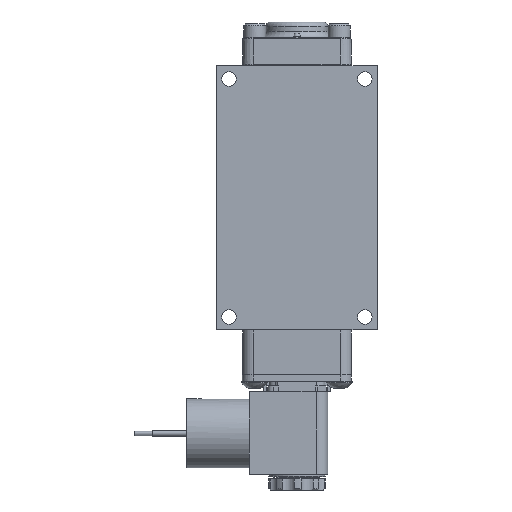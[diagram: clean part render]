
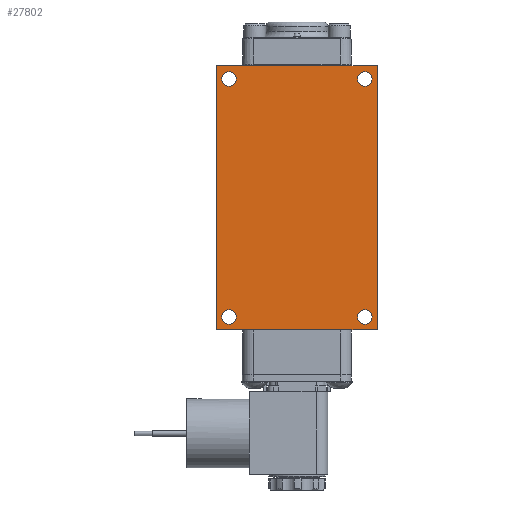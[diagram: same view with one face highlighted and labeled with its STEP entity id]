
A CAD part, front view. The second image highlights one B-rep face of the part: STEP entity #27802.
In plain terms, the highlighted planar face has unit normal (0, -1, 0).
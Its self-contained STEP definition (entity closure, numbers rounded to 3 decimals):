
#872=LINE('',#45897,#2687);
#881=LINE('',#45930,#2696);
#1103=LINE('',#47155,#2918);
#1345=LINE('',#48575,#3160);
#2687=VECTOR('',#35090,5.715);
#2696=VECTOR('',#35117,5.715);
#2918=VECTOR('',#35589,9.421);
#3160=VECTOR('',#35981,9.421);
#5207=FACE_BOUND('',#8757,.T.);
#5208=FACE_BOUND('',#8758,.T.);
#5209=FACE_BOUND('',#8759,.T.);
#5210=FACE_BOUND('',#8760,.T.);
#6765=FACE_OUTER_BOUND('',#8756,.T.);
#8756=EDGE_LOOP('',(#21982,#21983,#21984,#21985));
#8757=EDGE_LOOP('',(#21986));
#8758=EDGE_LOOP('',(#21987));
#8759=EDGE_LOOP('',(#21988));
#8760=EDGE_LOOP('',(#21989));
#10334=CIRCLE('',#30290,0.258);
#10335=CIRCLE('',#30292,0.258);
#10336=CIRCLE('',#30294,0.258);
#10337=CIRCLE('',#30296,0.258);
#11961=VERTEX_POINT('',#45894);
#11962=VERTEX_POINT('',#45896);
#11976=VERTEX_POINT('',#45927);
#11977=VERTEX_POINT('',#45929);
#12535=VERTEX_POINT('',#49326);
#12536=VERTEX_POINT('',#49329);
#12537=VERTEX_POINT('',#49332);
#12538=VERTEX_POINT('',#49335);
#15043=EDGE_CURVE('',#11961,#11962,#872,.T.);
#15059=EDGE_CURVE('',#11976,#11977,#881,.T.);
#15391=EDGE_CURVE('',#11977,#11961,#1103,.T.);
#15727=EDGE_CURVE('',#11962,#11976,#1345,.T.);
#15844=EDGE_CURVE('',#12535,#12535,#10334,.T.);
#15845=EDGE_CURVE('',#12536,#12536,#10335,.T.);
#15846=EDGE_CURVE('',#12537,#12537,#10336,.T.);
#15847=EDGE_CURVE('',#12538,#12538,#10337,.T.);
#21982=ORIENTED_EDGE('',*,*,#15391,.F.);
#21983=ORIENTED_EDGE('',*,*,#15059,.F.);
#21984=ORIENTED_EDGE('',*,*,#15727,.F.);
#21985=ORIENTED_EDGE('',*,*,#15043,.F.);
#21986=ORIENTED_EDGE('',*,*,#15844,.T.);
#21987=ORIENTED_EDGE('',*,*,#15845,.T.);
#21988=ORIENTED_EDGE('',*,*,#15846,.T.);
#21989=ORIENTED_EDGE('',*,*,#15847,.T.);
#24799=PLANE('',#30319);
#27802=ADVANCED_FACE('',(#6765,#5207,#5208,#5209,#5210),#24799,.F.);
#30290=AXIS2_PLACEMENT_3D('',#49327,#36280,#36281);
#30292=AXIS2_PLACEMENT_3D('',#49330,#36284,#36285);
#30294=AXIS2_PLACEMENT_3D('',#49333,#36288,#36289);
#30296=AXIS2_PLACEMENT_3D('',#49336,#36292,#36293);
#30319=AXIS2_PLACEMENT_3D('',#49367,#36338,#36339);
#35090=DIRECTION('',(1.,0.,0.));
#35117=DIRECTION('',(-1.,0.,0.));
#35589=DIRECTION('',(0.,0.,1.));
#35981=DIRECTION('',(0.,0.,-1.));
#36280=DIRECTION('center_axis',(0.,1.,0.));
#36281=DIRECTION('ref_axis',(-1.,0.,0.));
#36284=DIRECTION('center_axis',(0.,1.,0.));
#36285=DIRECTION('ref_axis',(-1.,0.,0.));
#36288=DIRECTION('center_axis',(0.,1.,0.));
#36289=DIRECTION('ref_axis',(-1.,0.,0.));
#36292=DIRECTION('center_axis',(0.,1.,0.));
#36293=DIRECTION('ref_axis',(-1.,0.,0.));
#36338=DIRECTION('center_axis',(0.,1.,0.));
#36339=DIRECTION('ref_axis',(0.,0.,1.));
#45894=CARTESIAN_POINT('',(-2.858,-1.636,4.71));
#45896=CARTESIAN_POINT('',(2.858,-1.636,4.71));
#45897=CARTESIAN_POINT('',(-2.858,-1.636,4.71));
#45927=CARTESIAN_POINT('',(2.858,-1.636,-4.71));
#45929=CARTESIAN_POINT('',(-2.858,-1.636,-4.71));
#45930=CARTESIAN_POINT('',(2.858,-1.636,-4.71));
#47155=CARTESIAN_POINT('',(-2.858,-1.636,-4.71));
#48575=CARTESIAN_POINT('',(2.858,-1.636,4.71));
#49326=CARTESIAN_POINT('',(-2.163,-1.636,-4.247));
#49327=CARTESIAN_POINT('Origin',(-2.421,-1.636,-4.247));
#49329=CARTESIAN_POINT('',(-2.163,-1.636,4.247));
#49330=CARTESIAN_POINT('Origin',(-2.421,-1.636,4.247));
#49332=CARTESIAN_POINT('',(2.678,-1.636,-4.247));
#49333=CARTESIAN_POINT('Origin',(2.421,-1.636,-4.247));
#49335=CARTESIAN_POINT('',(2.678,-1.636,4.247));
#49336=CARTESIAN_POINT('Origin',(2.421,-1.636,4.247));
#49367=CARTESIAN_POINT('Origin',(0.,-1.636,0.));
